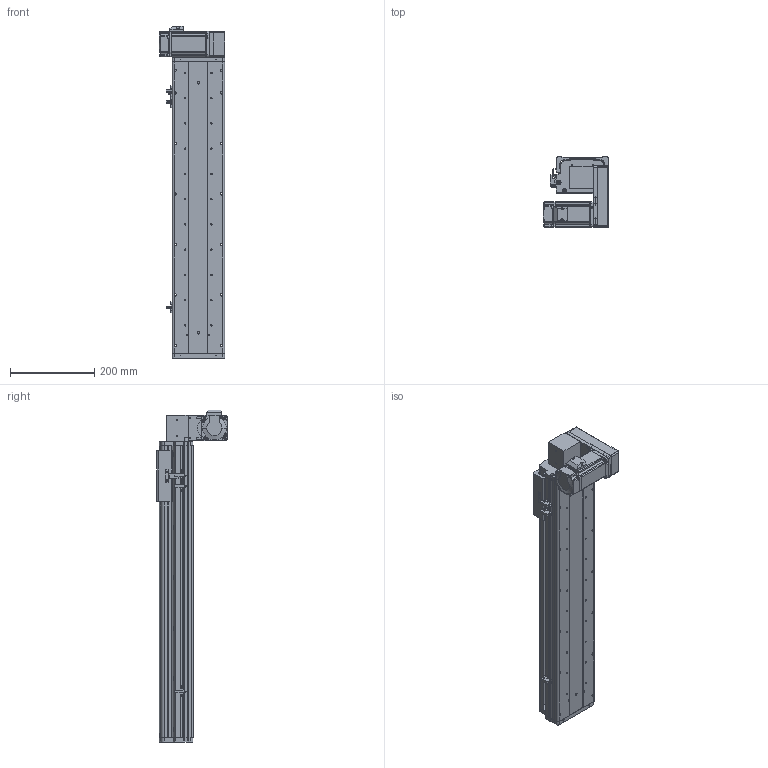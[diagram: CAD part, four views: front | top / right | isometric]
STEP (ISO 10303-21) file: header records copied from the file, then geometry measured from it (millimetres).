
FILE_DESCRIPTION (( 'STEP AP214' ), '1' );
FILE_NAME ('KSD125B-S500-MLD-CM.STEP', '2017-10-21T02:17:35', ( '微软用户' ), ( '微软中国' ), 'SwSTEP 2.0', 'SolidWorks 2014', '' );
FILE_SCHEMA (( 'AUTOMOTIVE_DESIGN' ));
Length unit declared in the file: millimetre
Products named in the file (17): HTPA30S3M150_A_H6_a萇儂蚚; MHMD042G1CA_2_03; 100宽马达安装板同步带左; KSD125模组同步带-防撞垫2; 覜茼え68遵圉猾敕; U倰嫖萇假蚾璃; U倰嫖萇EEㄜSX672; KSD125模组同步带-防撞垫1; 前端板-125宽模组同步带; 125模组同步带-尾端板1; KSD125模组500行程同步带-防尘盖; KSD125模组同步带-滑动座1; 125模组500行程同步带-底板; KSD125B-S500-MLD-CM; 悵誘欶奻狟殏; 100宽马达安装板连板上下折丝杆同步带; HTPA30S3M150_A_H6_a佪裝蚚
Assembly tree (20 placements, depth 2):
  KSD125B-S500-MLD-CM
    125模组500行程同步带-底板
    KSD125模组同步带-滑动座1
    KSD125模组500行程同步带-防尘盖
    125模组同步带-尾端板1
    前端板-125宽模组同步带
    KSD125模组同步带-防撞垫1
    U倰嫖萇EEㄜSX672  x3
    U倰嫖萇假蚾璃  x3
    覜茼え68遵圉猾敕
    KSD125模组同步带-防撞垫2
    100宽马达安装板同步带左
    MHMD042G1CA_2_03
    HTPA30S3M150_A_H6_a萇儂蚚
    HTPA30S3M150_A_H6_a佪裝蚚
    100宽马达安装板连板上下折丝杆同步带
    悵誘欶奻狟殏
Bounding box: 155 x 166.5 x 789 mm (x, y, z)
Volume: 2588753.5 mm3; surface area: 901260.6 mm2
Topology: 19 solids, 22 shells, 2249 faces, 6511 edges, 4302 vertices
Faces by surface type: cylinder 1400, plane 722, cone 105, bspline 22
Entity records: 79709 total; most frequent: CARTESIAN_POINT 15777, DIRECTION 12400, ORIENTED_EDGE 11542, EDGE_CURVE 5849, AXIS2_PLACEMENT_3D 4785, VERTEX_POINT 3894, VECTOR 2830, LINE 2830
